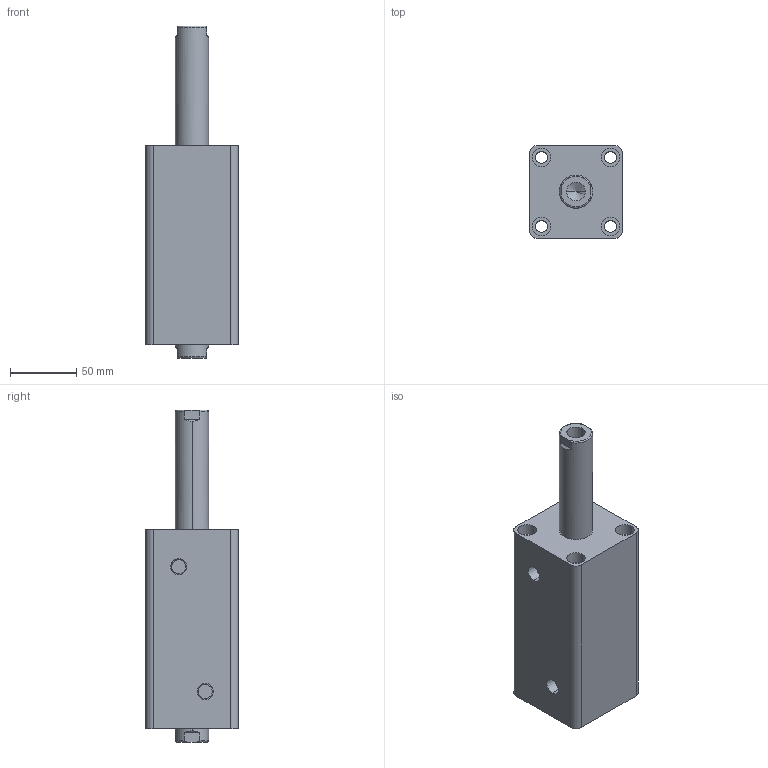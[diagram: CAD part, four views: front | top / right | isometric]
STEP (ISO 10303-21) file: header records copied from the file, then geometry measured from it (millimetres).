
FILE_DESCRIPTION (( 'STEP AP203' ), '1' );
FILE_NAME ('HTB-SW40-80N.STEP', '2019-10-07T09:12:01', ( '微软用户' ), ( '微软中国' ), 'SwSTEP 2.0', 'SolidWorks 2012', '' );
FILE_SCHEMA (( 'CONFIG_CONTROL_DESIGN' ));
Length unit declared in the file: millimetre
Products named in the file (3): HTB-SW40-80N; HTB-SW40-80N活塞杆; HTB-SW40-80掛极
Assembly tree (2 placements, depth 2):
  HTB-SW40-80N
    HTB-SW40-80掛极
    HTB-SW40-80N活塞杆
Bounding box: 70 x 70 x 250 mm (x, y, z)
Volume: 665133.2 mm3; surface area: 109733.4 mm2
Topology: 2 solids, 2 shells, 100 faces, 228 edges, 146 vertices
Faces by surface type: cylinder 48, plane 32, torus 12, cone 8
Entity records: 3237 total; most frequent: CARTESIAN_POINT 595, DIRECTION 542, ORIENTED_EDGE 448, AXIS2_PLACEMENT_3D 229, EDGE_CURVE 224, VERTEX_POINT 146, EDGE_LOOP 128, CIRCLE 124
